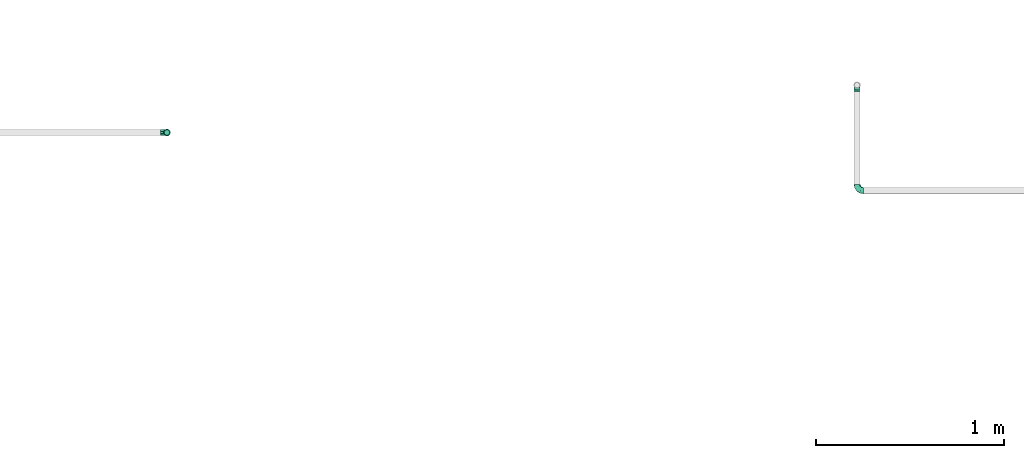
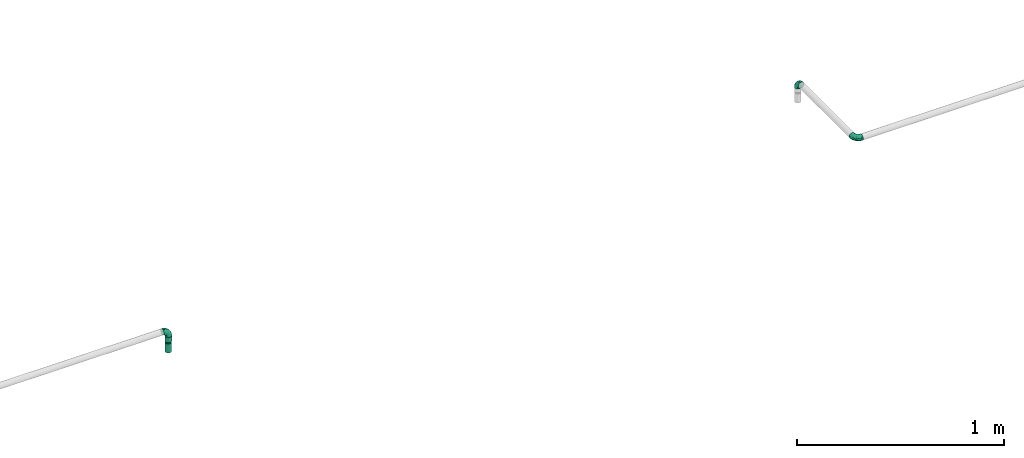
# One storey, part 6 of 17: 4 flow fittings, 1 flow segment, 1 flow terminal.
"""IFC2X3 building model written with IfcOpenShell, lengths in millimetres."""

from ifc_helpers import new_model, entity, si_unit, converted_unit, derived_unit, direction, frame, origin_with_axes, origin_2d_with_axis, place, context, subcontext, project, spatial, hollow_circle, extrude, open_shell, surface_model, source, transform, mapped, type_object, element, save


model = new_model("IFC2X3")

# Units and contexts
model_context = context("Model", 3, precision=0.01, world=frame((0.0, 4.29681676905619e-09, 0.0)), true_north=direction((4.01073788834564e-13, 1.0)))
plan_context = context("Plan", 3, precision=0.01, world=frame((0.0, 4.29681676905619e-09, 0.0)), true_north=direction((4.01073788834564e-13, 1.0)))
body_context = subcontext(model_context, "Body", "Model", "MODEL_VIEW")
ifc_project = project(units=[converted_unit("PLANEANGLEUNIT", "DEGREE", entity("IfcPositiveLengthMeasure", 0.0174532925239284), si_unit("PLANEANGLEUNIT", "RADIAN"), dimensions=[0, 0, 0, 0, 0, 0, 0]), si_unit("AREAUNIT", "SQUARE_METRE"), si_unit("LENGTHUNIT", "METRE", prefix="MILLI"), si_unit("MASSUNIT", "GRAM", prefix="KILO"), si_unit("POWERUNIT", "WATT"), si_unit("PRESSUREUNIT", "PASCAL"), si_unit("FORCEUNIT", "NEWTON", prefix="KILO"), si_unit("ELECTRICVOLTAGEUNIT", "VOLT"), si_unit("ELECTRICCURRENTUNIT", "AMPERE"), si_unit("THERMODYNAMICTEMPERATUREUNIT", "DEGREE_CELSIUS"), si_unit("TIMEUNIT", "SECOND"), si_unit("VOLUMEUNIT", "CUBIC_METRE"), derived_unit("LINEARVELOCITYUNIT", [(si_unit("LENGTHUNIT", "METRE"), 1), (si_unit("TIMEUNIT", "SECOND"), -1)]), derived_unit("VOLUMETRICFLOWRATEUNIT", [(si_unit("VOLUMEUNIT", "CUBIC_METRE"), 1), (si_unit("TIMEUNIT", "SECOND"), -1)]), derived_unit("THERMALTRANSMITTANCEUNIT", [(si_unit("POWERUNIT", "WATT"), 1), (si_unit("THERMODYNAMICTEMPERATUREUNIT", "KELVIN"), -1), (si_unit("AREAUNIT", "SQUARE_METRE"), -1)]), derived_unit("SOUNDPRESSUREUNIT", [(si_unit("PRESSUREUNIT", "PASCAL"), 1)])], contexts=[model_context, plan_context])

# Site, building, storey
site_placement = place(None, frame((0.0, -4.29681676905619e-09, 0.0), z_axis=(0.0, 0.0, 1.0), x_axis=(1.0, 0.0, 0.0)))
site = spatial("IfcSite", under=ifc_project, at=site_placement, Name="ENGM", CompositionType="ELEMENT")
building_placement = place(site_placement, frame((0.0, 4.29681676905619e-09, 0.0), z_axis=(0.0, 0.0, 1.0), x_axis=(1.0, 0.0, 0.0)))
building = spatial("IfcBuilding", under=site, at=building_placement, Name="TH", CompositionType="ELEMENT")
storey_placement = place(building_placement, frame((0.0, 0.0, 205200.0), z_axis=(0.0, 0.0, 1.0), x_axis=(1.0, 0.0, 0.0)))
storey = spatial("IfcBuildingStorey", under=building, at=storey_placement, Name="Nivå D + 1,2 m", CompositionType="ELEMENT", Elevation=205200.0)

# Flow fittings
pipe_fitting_type_1 = type_object("IfcPipeFittingType", Name="magi_pipe_fe_elbow_short_001", PredefinedType="BEND")
shared_shape_1 = source(origin_with_axes(), body_context, "Body", "SurfaceModel", [
    surface_model("IfcShellBasedSurfaceModel", [(-33.8, 8.45, -14.63583), (-33.8, 4.37404, -16.32415), (-33.8, 11.9501, -11.9501), (-33.8, -11.9501, -11.9501), (-33.8, -14.63583, -8.45), (-33.8, -8.45, -14.63583), (-33.8, 0.0, -16.9), (-33.8, -4.37404, -16.32415), (-33.8, -4.37404, 16.32415), (-33.8, 0.0, 16.9), (-33.8, -8.45, 14.63583), (-33.8, 16.32415, -4.37404), (-33.8, 14.63583, -8.45), (-33.8, -16.32415, -4.37404), (-33.8, -16.9, 0.0), (-33.8, -16.32415, 4.37404), (-33.8, 11.9501, 11.9501), (-33.8, 14.63583, 8.45), (-33.8, 16.32415, 4.37404), (-33.8, 4.37404, 16.32415), (-33.8, 8.45, 14.63583), (-33.8, -14.63583, 8.45), (-33.8, -11.9501, 11.9501), (-33.8, 16.9, 0.0), (-11.9501, 33.8, -11.9501), (0.0, 33.8, -16.9), (-4.37404, 33.8, -16.32415), (-8.45, 33.8, -14.63583), (-14.63583, 33.8, -8.45), (-16.32415, 33.8, -4.37404), (14.63583, 33.8, -8.45), (8.45, 33.8, 14.63583), (16.32415, 33.8, -4.37404), (8.45, 33.8, -14.63583), (11.9501, 33.8, -11.9501), (4.37404, 33.8, -16.32415), (16.32415, 33.8, 4.37404), (16.9, 33.8, 0.0), (-11.9501, 33.8, 11.9501), (-16.32415, 33.8, 4.37404), (-14.63583, 33.8, 8.45), (-8.45, 33.8, 14.63583), (-4.37404, 33.8, 16.32415), (11.9501, 33.8, 11.9501), (14.63583, 33.8, 8.45), (0.0, 33.8, 16.9), (4.37404, 33.8, 16.32415), (-16.9, 33.8, 0.0), (-24.79389, -13.12945, 9.48721), (-22.19287, -9.75018, 12.59315), (-24.09897, -14.97035, 0.0), (-14.93934, -10.76256, 8.5297), (-22.46095, -14.75051, 5.27077), (14.75051, 22.46094, 5.27077), (11.9251, 13.23888, 4.33236), (13.04069, 14.39795, 0.0), (7.71387, 13.68847, 11.55891), (9.75018, 22.19287, 12.59315), (4.10169, 13.0571, 14.04018), (-24.84007, -6.39063, 15.2048), (-25.81779, -2.23879, 16.61097), (-23.66549, 2.59054, 16.87119), (-26.50418, 14.06512, 11.08152), (-24.21253, 17.66365, 7.72657), (-29.58514, 15.86957, 7.00283), (-6.17382, -7.5455, 0.0), (-13.23888, -11.9251, 4.33236), (-14.39795, -13.04069, 0.0), (-17.81434, 18.87373, 11.97104), (-6.30846, 29.15138, 15.82987), (-2.31622, 25.28002, 16.85849), (-29.23923, 10.23435, 13.77053), (-1.45439, -2.85688, 7.61475), (-0.28326, 0.34872, 10.09509), (-5.74484, -4.04709, 10.4122), (-4.41137, 11.31918, 16.59407), (-8.39727, 3.10034, 15.7812), (-1.72649, 9.1306, 15.53089), (-17.39909, 24.75344, 7.64977), (-26.19233, 20.0512, 0.0), (-28.14518, 17.29657, 4.25857), (-26.05147, 6.6281, 15.96447), (-5.87354, 16.61944, 16.86968), (-12.51807, 12.51807, 16.48937), (-10.06312, 7.38516, 16.81295), (-3.01882, 3.01882, 13.81718), (-13.0571, -4.10169, 14.04018), (-16.82553, -0.15166, 16.38038), (10.76256, 14.93934, 8.5297), (13.12945, 24.79389, 9.48721), (6.39063, 24.84007, 15.2048), (2.23879, 25.81779, 16.61097), (-13.68847, -7.71387, 11.55891), (14.97035, 24.09897, 0.0), (-7.30894, 22.89991, 16.09489), (-10.67958, 26.17414, 14.008), (-12.78295, 18.26924, 15.06066), (-13.88562, 22.45231, 12.93244), (-18.04944, 15.16501, 14.04434), (-23.11658, 20.08178, 4.02986), (-21.84989, 21.84989, 0.0), (-18.55817, 25.48277, 3.93065), (-13.95142, 26.94732, 11.03289), (-18.57098, 7.23906, 16.59756), (-16.58335, 4.14122, 16.89279), (-17.96666, 11.46709, 15.63151), (-9.84453, 17.54304, 16.18938), (0.15166, 16.82553, 16.38038), (-23.27207, 11.47201, 14.23154), (3.84842, 5.86994, 10.70473), (-8.0212, -7.54413, 7.93275), (1.00345, -2.19508, 4.57414), (5.13203, 3.01004, 5.90201), (5.24161, 1.7543, 2.53265), (8.70457, 7.04947, 3.99182), (-20.0512, 26.19233, 0.0), (8.4852, 8.76699, 7.09296), (-4.55488, -6.72064, 4.90681), (2.05031, -2.05031, 0.0), (7.5455, 6.17382, 0.0), (-26.75399, 2.1369, -16.845), (-14.61995, 24.73803, -11.27736), (-28.45274, -13.45335, -9.81895), (-26.00469, 6.63555, -15.96645), (-23.06726, 20.04573, -4.26202), (-13.80647, -4.26506, -14.17873), (-14.67501, -0.21081, -16.07388), (-6.7902, -0.2828, -13.8478), (-24.53586, 11.08096, -14.13417), (-26.72048, 14.00837, -11.05776), (10.0967, 24.44989, -12.75976), (5.83237, 21.40218, -15.03047), (6.66249, 28.54238, -15.38093), (-20.38182, 15.48705, -12.74596), (12.53268, 21.23441, -9.15363), (12.54494, 15.67504, -5.54878), (9.7522, 12.89279, -8.66343), (-15.65186, 19.64213, -13.01327), (-12.03528, 20.66498, -14.67665), (-15.61907, 15.61906, -14.83879), (-25.56551, -15.26206, 0.0), (-24.65452, -15.12934, -5.50955), (13.45335, 28.45274, -9.81895), (15.12934, 24.65452, -5.50955), (-7.35442, -8.31014, -5.65563), (-15.67504, -12.54494, -5.54878), (-24.44989, -10.0967, -12.75976), (0.16522, 0.41303, -9.71728), (-5.70658, -5.33066, -8.89288), (-5.13869, -2.37198, -11.53565), (-21.23441, -12.53268, -9.15363), (0.71146, 7.93863, -14.09382), (0.21081, 14.67501, -16.07388), (3.49291, 14.42772, -14.76381), (-24.89911, -2.13088, -16.591), (-28.54238, -6.66249, -15.38093), (-18.44386, -7.71663, -13.26957), (2.13088, 24.89911, -16.591), (-28.64342, 17.44413, -2.89318), (1.70017, -1.28722, -5.09504), (-16.57067, 26.81947, -7.36596), (-17.69055, 27.4263, -3.76405), (-12.89279, -9.7522, -8.66343), (-5.96611, 5.96611, -15.95814), (-20.53709, 20.09345, -8.28985), (-2.1369, 26.75399, -16.845), (-6.89872, 24.58781, -16.02578), (-10.60739, 26.53157, -13.98044), (-21.40218, -5.83237, -15.03047), (2.93192, 5.89627, -11.55917), (6.89393, 12.61842, -11.82233), (5.58056, 5.95325, -8.79455), (-3.99512, 18.61798, -16.89635), (8.31014, 7.35442, -5.65563), (-9.1383, 9.86148, -16.89041), (-9.99983, 16.02119, -16.39699), (-16.68576, 9.78031, -16.34199), (-27.01915, 16.61158, -7.12979), (15.26206, 25.56551, 0.0), (-18.61798, 3.99512, -16.89635), (-19.37495, 27.82495, 0.0), (-12.61842, -6.89393, -11.82233), (-18.84705, 19.14018, -10.96545)], [open_shell([[[0, 1, 2]], [[3, 4, 5]], [[6, 7, 5]], [[8, 9, 10]], [[1, 6, 2]], [[11, 12, 2]], [[4, 2, 6]], [[2, 13, 10]], [[5, 4, 6]], [[2, 4, 13]], [[14, 15, 13]], [[11, 2, 16]], [[11, 17, 18]], [[11, 16, 17]], [[19, 20, 16]], [[16, 2, 10]], [[19, 16, 10]], [[21, 22, 15]], [[22, 13, 15]], [[22, 10, 13]], [[10, 9, 19]], [[11, 18, 23]], [[24, 25, 26]], [[24, 26, 27]], [[24, 28, 29]], [[25, 24, 30]], [[31, 32, 24]], [[33, 30, 34]], [[33, 35, 25]], [[25, 30, 33]], [[32, 30, 24]], [[32, 36, 37]], [[38, 24, 29]], [[39, 40, 29]], [[40, 38, 29]], [[38, 41, 42]], [[38, 31, 24]], [[31, 38, 42]], [[36, 43, 44]], [[36, 32, 43]], [[31, 45, 46]], [[32, 31, 43]], [[42, 45, 31]], [[39, 29, 47]], [[22, 48, 49]], [[15, 14, 50]], [[51, 48, 52]], [[53, 54, 55]], [[48, 22, 21]], [[15, 52, 21]], [[56, 57, 58]], [[49, 10, 22]], [[49, 59, 10]], [[9, 60, 61]], [[62, 63, 64]], [[65, 66, 67]], [[57, 43, 31]], [[62, 68, 63]], [[42, 69, 70]], [[20, 71, 16]], [[8, 60, 9]], [[72, 73, 74]], [[75, 76, 77]], [[16, 62, 17]], [[40, 39, 78]], [[79, 23, 80]], [[64, 18, 17]], [[9, 61, 19]], [[19, 81, 20]], [[82, 83, 84]], [[74, 85, 86]], [[59, 86, 87]], [[88, 89, 57]], [[90, 31, 46]], [[44, 53, 36]], [[46, 45, 91]], [[54, 53, 88]], [[44, 89, 53]], [[92, 86, 49]], [[89, 44, 43]], [[10, 59, 8]], [[53, 55, 93]], [[93, 36, 53]], [[66, 52, 67]], [[94, 82, 70]], [[95, 96, 94]], [[97, 98, 96]], [[79, 99, 100]], [[41, 38, 95]], [[101, 100, 99]], [[68, 78, 63]], [[42, 41, 69]], [[23, 18, 80]], [[95, 94, 69]], [[78, 101, 99]], [[38, 102, 95]], [[70, 45, 42]], [[97, 95, 102]], [[15, 50, 52]], [[90, 57, 31]], [[57, 90, 58]], [[81, 19, 61]], [[103, 104, 84]], [[105, 81, 103]], [[38, 40, 102]], [[106, 96, 83]], [[94, 106, 82]], [[91, 70, 107]], [[71, 62, 16]], [[62, 108, 98]], [[86, 59, 49]], [[67, 52, 50]], [[60, 59, 87]], [[92, 49, 51]], [[86, 85, 76]], [[91, 90, 46]], [[37, 36, 93]], [[107, 77, 58]], [[107, 58, 90]], [[58, 85, 109]], [[110, 74, 92]], [[72, 74, 110]], [[66, 51, 52]], [[72, 111, 112]], [[113, 114, 112]], [[56, 88, 57]], [[52, 48, 21]], [[49, 48, 51]], [[57, 89, 43]], [[53, 89, 88]], [[103, 81, 61]], [[71, 81, 108]], [[18, 64, 80]], [[63, 78, 99]], [[47, 115, 101]], [[101, 115, 100]], [[40, 78, 102]], [[68, 102, 78]], [[97, 96, 95]], [[105, 98, 108]], [[103, 84, 83]], [[107, 70, 82]], [[76, 84, 87]], [[82, 84, 75]], [[70, 91, 45]], [[90, 91, 107]], [[59, 60, 8]], [[61, 60, 87]], [[73, 85, 74]], [[109, 112, 116]], [[103, 61, 104]], [[105, 103, 83]], [[96, 105, 83]], [[81, 105, 108]], [[96, 98, 105]], [[62, 98, 68]], [[61, 87, 104]], [[87, 84, 104]], [[86, 76, 87]], [[77, 76, 85]], [[58, 77, 85]], [[75, 77, 107]], [[82, 75, 107]], [[76, 75, 84]], [[81, 71, 20]], [[62, 71, 108]], [[95, 69, 41]], [[70, 69, 94]], [[62, 64, 17]], [[80, 63, 99]], [[63, 80, 64]], [[80, 99, 79]], [[66, 65, 117]], [[110, 66, 117]], [[112, 114, 116]], [[118, 117, 65]], [[110, 92, 51]], [[112, 111, 113]], [[119, 55, 54]], [[74, 86, 92]], [[58, 109, 56]], [[116, 56, 109]], [[66, 110, 51]], [[72, 110, 117]], [[111, 72, 117]], [[73, 112, 109]], [[117, 118, 111]], [[113, 111, 118]], [[118, 119, 113]], [[114, 119, 54]], [[119, 114, 113]], [[116, 54, 88]], [[54, 116, 114]], [[116, 88, 56]], [[112, 73, 72]], [[85, 73, 109]], [[78, 39, 101]], [[47, 101, 39]], [[102, 68, 97]], [[97, 68, 98]], [[82, 106, 83]], [[94, 96, 106]], [[1, 120, 6]], [[28, 24, 121]], [[3, 122, 4]], [[0, 123, 1]], [[100, 124, 79]], [[125, 126, 127]], [[128, 2, 129]], [[130, 131, 132]], [[128, 129, 133]], [[134, 135, 136]], [[137, 138, 139]], [[128, 0, 2]], [[67, 140, 141]], [[134, 142, 143]], [[141, 13, 4]], [[144, 65, 145]], [[146, 3, 5]], [[147, 148, 149]], [[145, 141, 150]], [[151, 152, 153]], [[154, 7, 6]], [[5, 155, 146]], [[150, 146, 156]], [[155, 5, 7]], [[143, 135, 134]], [[35, 157, 25]], [[23, 79, 158]], [[148, 159, 144]], [[160, 161, 29]], [[145, 162, 144]], [[163, 152, 151]], [[29, 28, 160]], [[121, 164, 160]], [[33, 34, 130]], [[25, 165, 26]], [[26, 165, 166]], [[142, 34, 30]], [[24, 27, 167]], [[124, 161, 164]], [[157, 35, 132]], [[155, 154, 168]], [[123, 0, 128]], [[169, 170, 171]], [[172, 157, 152]], [[26, 166, 27]], [[132, 35, 33]], [[142, 130, 34]], [[168, 154, 126]], [[136, 135, 173]], [[133, 137, 139]], [[2, 12, 129]], [[170, 131, 130]], [[30, 32, 143]], [[172, 174, 175]], [[176, 123, 128]], [[158, 177, 11]], [[135, 55, 119]], [[167, 27, 166]], [[175, 166, 172]], [[137, 167, 138]], [[122, 141, 4]], [[140, 14, 13]], [[32, 37, 178]], [[170, 130, 134]], [[152, 157, 131]], [[165, 157, 172]], [[153, 170, 151]], [[152, 163, 174]], [[168, 125, 156]], [[122, 146, 150]], [[120, 154, 6]], [[179, 174, 126]], [[179, 126, 154]], [[126, 163, 127]], [[162, 145, 150]], [[140, 13, 141]], [[32, 178, 143]], [[55, 143, 178]], [[177, 129, 12]], [[128, 133, 139]], [[176, 128, 139]], [[120, 123, 179]], [[121, 160, 28]], [[161, 100, 180]], [[166, 175, 138]], [[121, 24, 167]], [[161, 47, 29]], [[79, 124, 158]], [[124, 164, 177]], [[161, 124, 100]], [[136, 171, 170]], [[127, 163, 151]], [[147, 171, 159]], [[148, 144, 162]], [[127, 151, 169]], [[127, 181, 125]], [[129, 177, 164]], [[12, 11, 177]], [[159, 65, 144]], [[67, 141, 145]], [[143, 55, 135]], [[135, 119, 173]], [[123, 120, 1]], [[154, 120, 179]], [[157, 165, 25]], [[166, 165, 172]], [[172, 152, 174]], [[176, 139, 175]], [[126, 174, 163]], [[176, 174, 179]], [[174, 176, 175]], [[123, 176, 179]], [[150, 181, 162]], [[127, 149, 181]], [[181, 148, 162]], [[159, 148, 147]], [[171, 136, 173]], [[170, 134, 136]], [[159, 171, 173]], [[171, 147, 169]], [[169, 147, 149]], [[151, 170, 169]], [[164, 182, 129]], [[182, 121, 137]], [[181, 149, 148]], [[169, 149, 127]], [[182, 137, 133]], [[167, 137, 121]], [[166, 138, 167]], [[175, 139, 138]], [[129, 182, 133]], [[121, 182, 164]], [[161, 160, 164]], [[47, 161, 180]], [[177, 158, 124]], [[23, 158, 11]], [[130, 132, 33]], [[157, 132, 131]], [[143, 142, 30]], [[130, 142, 134]], [[154, 155, 7]], [[146, 155, 168]], [[146, 122, 3]], [[141, 122, 150]], [[152, 131, 153]], [[159, 119, 118]], [[67, 145, 65]], [[170, 153, 131]], [[119, 159, 173]], [[159, 118, 65]], [[156, 125, 181]], [[126, 125, 168]], [[150, 156, 181]], [[168, 156, 146]]])]),
])
for number, where, z_axis, x_axis, name in (
    (1, (899443.61593, 482229.28614, 4450.15312), (-1.0, 0.0, 0.0), (0.0, 1.0, 0.0), "magi_pipe_fe_elbow_short_001"),
    (2, (899443.61593, 481669.28614, 4450.15312), (0.0, 0.0, 1.0), (0.0, -1.0, 0.0), "magi_pipe_fe_elbow_short_001"),
    (3, (895782.28738, 481977.62186, 4417.88264999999), (0.0, -1.0, 0.0), (0.0, 0.0, 1.0), "magi_pipe_fe_elbow_short_001"),
):
    element("IfcFlowFitting", number, at=place(storey_placement, frame(where, z_axis=z_axis, x_axis=x_axis)), inside=storey, type_object=pipe_fitting_type_1, Name=name, context=body_context, shape_type="MappedRepresentation", body=[
        mapped(shared_shape_1, transform((0.0, 0.0, 0.0), scale=1.0)),
    ])
pipe_fitting_type_2 = type_object("IfcPipeFittingType", Name="magi_pipe_fe_reducer_centric_short_NOR", PredefinedType="TRANSITION")
shared_shape_2 = source(origin_with_axes(), body_context, "Body", "SurfaceModel", [
    surface_model("IfcShellBasedSurfaceModel", [(14.4, 4.37404, -16.32415), (14.4, 8.45, -14.63583), (14.4, 11.9501, -11.9501), (14.4, -8.45, -14.63583), (14.4, 16.32415, -4.37404), (14.4, 16.32415, 4.37404), (14.4, 14.63583, -8.45), (14.4, 0.0, -16.9), (14.4, -4.37404, -16.32415), (14.4, -11.9501, -11.9501), (14.4, -16.32415, -4.37404), (14.4, -14.63583, -8.45), (14.4, -16.32415, 4.37404), (14.4, 16.9, 0.0), (14.4, 14.63583, 8.45), (14.4, 11.9501, 11.9501), (14.4, 4.37404, 16.32415), (14.4, 8.45, 14.63583), (14.4, 0.0, 16.9), (14.4, -14.63583, 8.45), (14.4, -16.9, 0.0), (14.4, -8.45, 14.63583), (14.4, -11.9501, 11.9501), (14.4, -4.37404, 16.32415), (12.4, 4.37404, 16.32415), (12.4, -14.63583, 8.45), (12.4, 0.0, 16.9), (12.4, 16.32415, 4.37404), (12.4, 8.45, 14.63583), (12.4, 11.9501, 11.9501), (12.4, 14.63583, 8.45), (12.4, -8.45, 14.63583), (12.4, -11.9501, 11.9501), (12.4, -4.37404, 16.32415), (12.4, -16.32415, 4.37404), (12.4, -16.32415, -4.37404), (12.4, -16.9, 0.0), (12.4, -8.45, -14.63583), (12.4, 16.32415, -4.37404), (12.4, 11.9501, -11.9501), (12.4, 14.63583, -8.45), (12.4, 8.45, -14.63583), (12.4, 4.37404, -16.32415), (12.4, 0.0, -16.9), (12.4, -11.9501, -11.9501), (12.4, -14.63583, -8.45), (12.4, -4.37404, -16.32415), (12.4, 16.9, 0.0), (-2.0, 10.33541, 2.76936), (-2.0, 0.0, 10.7), (-2.0, 2.76936, 10.33541), (-2.0, 7.56604, 7.56604), (-2.0, 5.35, 9.26647), (-2.0, 9.26647, 5.35), (-2.0, -9.26647, 5.35), (-2.0, -2.76936, 10.33541), (-2.0, -7.56604, 7.56604), (-2.0, -5.35, 9.26647), (-2.0, -10.33541, 2.76936), (-2.0, -10.33541, -2.76936), (-2.0, -10.7, 0.0), (-2.0, 10.33541, -2.76936), (-2.0, 7.56604, -7.56604), (-2.0, 9.26647, -5.35), (-2.0, 5.35, -9.26647), (-2.0, -5.35, -9.26647), (-2.0, 2.76936, -10.33541), (-2.0, -7.56604, -7.56604), (-2.0, -9.26647, -5.35), (-2.0, 0.0, -10.7), (-2.0, -2.76936, -10.33541), (-2.0, 10.7, 0.0), (0.0, 5.35, -9.26647), (0.0, 0.0, -10.7), (0.0, 2.76936, -10.33541), (0.0, 10.33541, -2.76936), (0.0, 7.56604, -7.56604), (0.0, -5.35, -9.26647), (0.0, 9.26647, -5.35), (0.0, -9.26647, 5.35), (0.0, -2.76936, -10.33541), (0.0, -7.56604, -7.56604), (0.0, -10.33541, -2.76936), (0.0, -9.26647, -5.35), (0.0, 10.33541, 2.76936), (0.0, 10.7, 0.0), (0.0, 9.26647, 5.35), (0.0, 7.56604, 7.56604), (0.0, 2.76936, 10.33541), (0.0, 0.0, 10.7), (0.0, 5.35, 9.26647), (0.0, -10.33541, 2.76936), (0.0, -10.7, 0.0), (0.0, -7.56604, 7.56604), (0.0, -2.76936, 10.33541), (0.0, -5.35, 9.26647), (0.0, -9.3625, -2.31662), (12.4, -14.42505, -5.97505), (12.4, -15.66253, -2.98753), (0.0, 6.6875, -6.94985), (12.4, 8.96258, -13.18758), (0.0, -6.6875, -6.94985), (12.4, -8.96258, -13.18758), (0.0, 9.3625, -2.31662), (12.4, 15.66253, -2.98753), (12.4, 14.42505, -5.97505), (12.4, -5.97505, -14.42505), (12.4, 5.97505, -14.42505), (0.0, 2.675, -9.26647), (12.4, 13.18758, -8.96258), (0.0, -2.675, -9.26647), (12.4, -13.18758, -8.96258), (0.0, -8.025, -4.63324), (12.4, 2.98753, -15.66253), (0.0, 0.0, -9.26647), (12.4, -2.98753, -15.66253), (0.0, 8.025, -4.63324), (0.0, 9.3625, 2.31662), (12.4, 14.42505, 5.97505), (12.4, 15.66253, 2.98753), (0.0, -6.6875, 6.94985), (12.4, -8.96258, 13.18758), (0.0, 6.6875, 6.94985), (12.4, 8.96258, 13.18758), (0.0, -9.3625, 2.31662), (12.4, -15.66253, 2.98753), (12.4, -14.42505, 5.97505), (12.4, 5.97505, 14.42505), (12.4, -5.97505, 14.42505), (0.0, -2.675, 9.26647), (12.4, -13.18758, 8.96258), (0.0, 2.675, 9.26647), (12.4, 13.18758, 8.96258), (0.0, 8.025, 4.63324), (12.4, -2.98753, 15.66253), (0.0, 0.0, 9.26647), (12.4, 2.98753, 15.66253), (0.0, -8.025, 4.63324)], [open_shell([[[0, 1, 2]], [[3, 0, 2]], [[2, 4, 5]], [[4, 2, 6]], [[2, 5, 3]], [[7, 3, 8]], [[7, 0, 3]], [[9, 10, 11]], [[10, 9, 3]], [[3, 12, 10]], [[5, 4, 13]], [[5, 14, 15]], [[5, 15, 16]], [[16, 12, 3]], [[16, 15, 17]], [[12, 16, 18]], [[18, 19, 12]], [[20, 10, 12]], [[19, 21, 22]], [[19, 18, 21]], [[21, 18, 23]], [[3, 5, 16]], [[24, 25, 26]], [[27, 24, 28]], [[29, 30, 27]], [[29, 27, 28]], [[25, 24, 27]], [[31, 25, 32]], [[31, 33, 26]], [[26, 25, 31]], [[34, 25, 27]], [[34, 35, 36]], [[34, 27, 37]], [[27, 38, 39]], [[39, 38, 40]], [[39, 41, 42]], [[37, 27, 39]], [[42, 43, 39]], [[35, 44, 45]], [[44, 35, 37]], [[37, 43, 46]], [[35, 34, 37]], [[39, 43, 37]], [[38, 27, 47]], [[35, 10, 36]], [[45, 11, 35]], [[3, 44, 37]], [[45, 44, 9]], [[8, 37, 46]], [[35, 11, 10]], [[10, 20, 36]], [[8, 3, 37]], [[9, 44, 3]], [[9, 11, 45]], [[7, 8, 46]], [[46, 43, 7]], [[42, 0, 43]], [[41, 1, 42]], [[6, 39, 40]], [[41, 39, 2]], [[4, 40, 38]], [[41, 2, 1]], [[1, 0, 42]], [[13, 4, 38]], [[6, 40, 4]], [[6, 2, 39]], [[47, 13, 38]], [[43, 0, 7]], [[27, 5, 47]], [[30, 14, 27]], [[17, 29, 28]], [[30, 29, 15]], [[16, 28, 24]], [[27, 14, 5]], [[5, 13, 47]], [[16, 17, 28]], [[15, 29, 17]], [[15, 14, 30]], [[18, 16, 24]], [[24, 26, 18]], [[33, 23, 26]], [[31, 21, 33]], [[19, 32, 25]], [[31, 32, 22]], [[12, 25, 34]], [[31, 22, 21]], [[21, 23, 33]], [[20, 12, 34]], [[19, 25, 12]], [[19, 22, 32]], [[36, 20, 34]], [[26, 23, 18]], [[48, 49, 50]], [[51, 50, 52]], [[51, 53, 48]], [[51, 48, 50]], [[49, 48, 54]], [[55, 56, 57]], [[56, 55, 54]], [[58, 59, 60]], [[54, 55, 49]], [[58, 54, 59]], [[54, 48, 61]], [[59, 54, 61]], [[62, 61, 63]], [[59, 62, 64]], [[61, 62, 59]], [[65, 64, 66]], [[59, 67, 68]], [[67, 59, 65]], [[65, 69, 70]], [[65, 59, 64]], [[66, 69, 65]], [[61, 48, 71]], [[72, 73, 74]], [[75, 72, 76]], [[77, 72, 75]], [[75, 76, 78]], [[79, 77, 75]], [[73, 77, 80]], [[73, 72, 77]], [[81, 82, 83]], [[82, 81, 77]], [[77, 79, 82]], [[84, 75, 85]], [[84, 86, 87]], [[75, 87, 79]], [[88, 89, 87]], [[88, 87, 90]], [[79, 87, 89]], [[82, 91, 92]], [[79, 91, 82]], [[93, 94, 95]], [[94, 93, 79]], [[89, 94, 79]], [[75, 84, 87]], [[59, 82, 60]], [[68, 83, 59]], [[77, 67, 65]], [[68, 67, 81]], [[80, 65, 70]], [[59, 83, 82]], [[82, 92, 60]], [[80, 77, 65]], [[81, 67, 77]], [[81, 83, 68]], [[73, 80, 70]], [[70, 69, 73]], [[66, 74, 69]], [[64, 72, 66]], [[78, 62, 63]], [[64, 62, 76]], [[75, 63, 61]], [[64, 76, 72]], [[72, 74, 66]], [[85, 75, 61]], [[78, 63, 75]], [[78, 76, 62]], [[71, 85, 61]], [[69, 74, 73]], [[48, 84, 71]], [[53, 86, 48]], [[90, 51, 52]], [[53, 51, 87]], [[88, 52, 50]], [[48, 86, 84]], [[84, 85, 71]], [[88, 90, 52]], [[87, 51, 90]], [[87, 86, 53]], [[89, 88, 50]], [[50, 49, 89]], [[55, 94, 49]], [[57, 95, 55]], [[79, 56, 54]], [[57, 56, 93]], [[91, 54, 58]], [[57, 93, 95]], [[95, 94, 55]], [[92, 91, 58]], [[79, 54, 91]], [[79, 93, 56]], [[60, 92, 58]], [[49, 94, 89]], [[29, 26, 39]], [[39, 47, 29]], [[36, 26, 32]], [[36, 44, 43]], [[43, 39, 36]], [[36, 39, 26]], [[92, 95, 77]], [[85, 95, 90]], [[85, 72, 77]], [[85, 77, 95]], [[96, 97, 98]], [[92, 96, 98]], [[99, 100, 72]], [[98, 36, 92]], [[44, 101, 102]], [[101, 77, 102]], [[103, 104, 105]], [[85, 47, 104]], [[77, 106, 102]], [[107, 108, 72]], [[109, 39, 99]], [[106, 77, 110]], [[101, 111, 112]], [[113, 114, 108]], [[100, 99, 39]], [[110, 115, 106]], [[99, 116, 109]], [[100, 107, 72]], [[96, 112, 97]], [[105, 116, 103]], [[85, 104, 103]], [[108, 107, 113]], [[113, 43, 114]], [[116, 105, 109]], [[114, 115, 110]], [[43, 115, 114]], [[111, 101, 44]], [[111, 97, 112]], [[117, 118, 119]], [[85, 117, 119]], [[120, 121, 95]], [[119, 47, 85]], [[29, 122, 123]], [[122, 90, 123]], [[124, 125, 126]], [[92, 36, 125]], [[90, 127, 123]], [[128, 129, 95]], [[130, 32, 120]], [[127, 90, 131]], [[122, 132, 133]], [[134, 135, 129]], [[121, 120, 32]], [[131, 136, 127]], [[120, 137, 130]], [[121, 128, 95]], [[117, 133, 118]], [[126, 137, 124]], [[92, 125, 124]], [[129, 128, 134]], [[134, 26, 135]], [[137, 126, 130]], [[135, 136, 131]], [[26, 136, 135]], [[132, 122, 29]], [[132, 118, 133]]])]),
])
flow_fitting_placement = place(storey_placement, frame((895782.28738, 481977.62186, 4341.23232000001), z_axis=(0.0, 1.0, 0.0), x_axis=(0.0, 0.0, 1.0)))
element("IfcFlowFitting", 4, at=flow_fitting_placement, inside=storey, type_object=pipe_fitting_type_2, Name="magi_pipe_fe_reducer_centric_short_NOR", context=body_context, shape_type="MappedRepresentation", body=[
    mapped(shared_shape_2, transform((0.0, 0.0, 0.0), scale=1.0)),
])

# Flow segment
pipe_segment_type = type_object("IfcPipeSegmentType", Name="Stålrør normaltykke", PredefinedType="RIGIDSEGMENT")
shared_shape_3 = source(origin_with_axes(), body_context, "Body", "SweptSolid", [
    extrude(hollow_circle(Radius=16.9, WallThickness=2.0, at=origin_2d_with_axis()), frame((0.0, 0.0, 0.0), z_axis=(1.0, 0.0, 0.0), x_axis=(0.0, 1.0, 0.0)), (0.0, 0.0, 1.0), 30.5),
])
flow_segment_placement = place(storey_placement, frame((895782.28738, 481977.62186, 4353.63232), z_axis=(0.0, 1.0, 0.0), x_axis=(0.0, 0.0, 1.0)))
element("IfcFlowSegment", 5, at=flow_segment_placement, inside=storey, type_object=pipe_segment_type, Name="Stålrør normaltykke", context=body_context, shape_type="MappedRepresentation", body=[
    mapped(shared_shape_3, transform((0.0, 0.0, 0.0), scale=1.0)),
])

# Flow terminal
fire_suppression_terminal_type = type_object("IfcFireSuppressionTerminalType", Name="SP-15-K80-68DGR-STD-NEDOVER", PredefinedType="NOTDEFINED")
shared_shape_4 = source(origin_with_axes(), body_context, "Body", "SurfaceModel", [
    surface_model("IfcShellBasedSurfaceModel", [(4.1411, -15.45481, 53.0), (8.0, -13.85641, 53.0), (11.31371, -11.31371, 53.0), (-8.0, -13.85641, 53.0), (15.45481, -4.1411, 53.0), (16.0, 0.0, 53.0), (13.85641, -8.0, 53.0), (0.0, -16.0, 53.0), (-4.1411, -15.45481, 53.0), (-13.85641, -8.0, 53.0), (-11.31371, -11.31371, 53.0), (-15.45481, -4.1411, 53.0), (15.45481, 4.1411, 53.0), (13.85641, 8.0, 53.0), (11.31371, 11.31371, 53.0), (-4.1411, 15.45481, 53.0), (8.0, 13.85641, 53.0), (4.1411, 15.45481, 53.0), (0.0, 16.0, 53.0), (-13.85641, 8.0, 53.0), (-15.45481, 4.1411, 53.0), (-16.0, 0.0, 53.0), (-11.31371, 11.31371, 53.0), (-8.0, 13.85641, 53.0), (0.0, 16.0, 0.0), (4.1411, 15.45481, 0.0), (8.0, 13.85641, 0.0), (-4.1411, 15.45481, 0.0), (11.31371, 11.31371, 0.0), (13.85641, 8.0, 0.0), (15.45481, 4.1411, 0.0), (-15.45481, -4.1411, 0.0), (-11.31371, 11.31371, 0.0), (-8.0, 13.85641, 0.0), (-13.85641, 8.0, 0.0), (-15.45481, 4.1411, 0.0), (-16.0, 0.0, 0.0), (4.1411, -15.45481, 0.0), (16.0, 0.0, 0.0), (15.45481, -4.1411, 0.0), (13.85641, -8.0, 0.0), (11.31371, -11.31371, 0.0), (8.0, -13.85641, 0.0), (-8.0, -13.85641, 0.0), (-13.85641, -8.0, 0.0), (-11.31371, -11.31371, 0.0), (0.0, -16.0, 0.0), (-4.1411, -15.45481, 0.0)], [open_shell([[[0, 1, 2]], [[3, 0, 2]], [[4, 5, 2]], [[4, 2, 6]], [[3, 2, 5]], [[7, 3, 8]], [[7, 0, 3]], [[3, 9, 10]], [[9, 3, 11]], [[5, 11, 3]], [[5, 12, 11]], [[12, 13, 14]], [[15, 12, 14]], [[16, 17, 18]], [[14, 16, 15]], [[18, 15, 16]], [[11, 19, 20]], [[21, 11, 20]], [[22, 15, 23]], [[15, 22, 19]], [[19, 11, 15]], [[11, 12, 15]], [[24, 25, 26]], [[27, 24, 26]], [[28, 29, 30]], [[27, 26, 28]], [[27, 28, 31]], [[27, 32, 33]], [[32, 27, 34]], [[34, 31, 35]], [[31, 34, 27]], [[35, 31, 36]], [[28, 30, 31]], [[37, 38, 39]], [[37, 39, 40]], [[41, 42, 37]], [[41, 37, 40]], [[38, 37, 43]], [[44, 43, 45]], [[43, 44, 31]], [[43, 46, 47]], [[43, 31, 38]], [[37, 46, 43]], [[38, 31, 30]], [[11, 31, 44]], [[45, 9, 44]], [[3, 43, 47]], [[45, 43, 10]], [[8, 47, 46]], [[31, 21, 36]], [[31, 11, 21]], [[44, 9, 11]], [[45, 10, 9]], [[3, 10, 43]], [[47, 8, 3]], [[46, 7, 8]], [[0, 37, 42]], [[41, 1, 42]], [[6, 40, 39]], [[41, 40, 2]], [[4, 39, 38]], [[37, 0, 7]], [[42, 1, 0]], [[41, 2, 1]], [[40, 6, 2]], [[4, 6, 39]], [[38, 5, 4]], [[37, 7, 46]], [[12, 38, 30]], [[13, 30, 29]], [[16, 26, 25]], [[17, 25, 24]], [[30, 13, 12]], [[12, 5, 38]], [[28, 14, 13]], [[28, 26, 14]], [[14, 26, 16]], [[25, 17, 16]], [[28, 13, 29]], [[24, 18, 17]], [[15, 27, 33]], [[32, 23, 33]], [[19, 34, 35]], [[32, 34, 22]], [[20, 35, 36]], [[27, 15, 18]], [[33, 23, 15]], [[32, 22, 23]], [[34, 19, 22]], [[20, 19, 35]], [[36, 21, 20]], [[27, 18, 24]]])]),
])
flow_terminal_placement = place(storey_placement, frame((895782.28738, 481978.50742, 4344.28031999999), z_axis=(0.0, 0.0, -1.0), x_axis=(1.0, 0.0, 0.0)))
element("IfcFlowTerminal", 6, at=flow_terminal_placement, inside=storey, type_object=fire_suppression_terminal_type, Name="SP-15-K80-68DGR-STD-NEDOVER", context=body_context, shape_type="MappedRepresentation", body=[
    mapped(shared_shape_4, transform((0.0, 0.0, 0.0), scale=1.0)),
])

save(model, "model.ifc")
